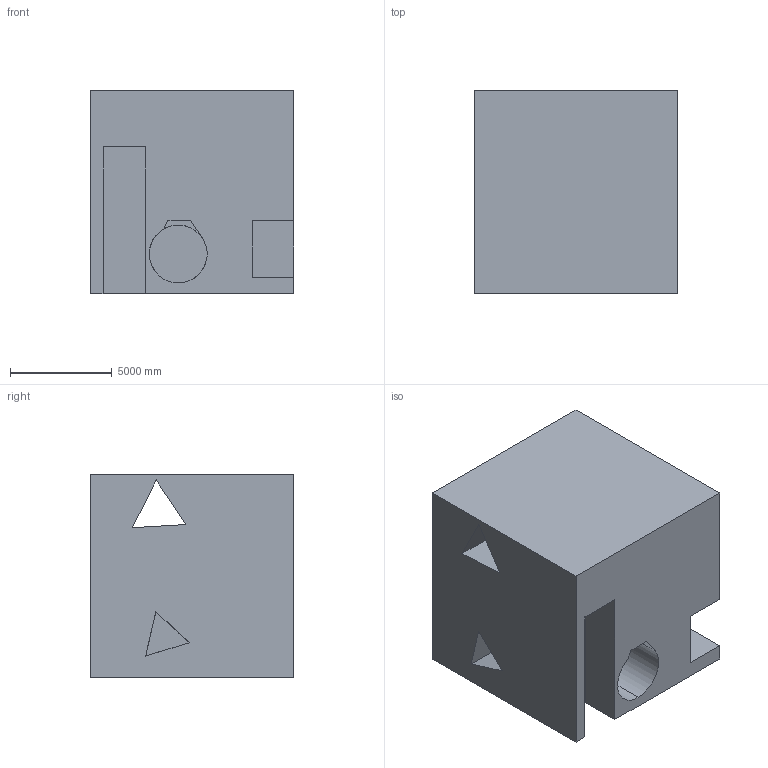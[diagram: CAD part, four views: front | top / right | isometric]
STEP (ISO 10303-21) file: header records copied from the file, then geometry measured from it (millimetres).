
FILE_DESCRIPTION (( 'STEP AP203' ), '1' );
FILE_NAME ('158.STEP', '2022-09-06T15:16:12', ( 'user' ), ( '' ), 'SwSTEP 2.0', 'SolidWorks 2021', '' );
FILE_SCHEMA (( 'CONFIG_CONTROL_DESIGN' ));
Length unit declared in the file: centimetre
Products named in the file (1): 158
Bounding box: 10000 x 10000 x 10000 mm (x, y, z)
Volume: 857814967127.9 mm3; surface area: 822320959.5 mm2
Topology: 1 solids, 1 shells, 31 faces, 81 edges, 54 vertices
Faces by surface type: plane 29, cylinder 2
Entity records: 1026 total; most frequent: CARTESIAN_POINT 185, ORIENTED_EDGE 162, DIRECTION 145, EDGE_CURVE 81, VECTOR 69, LINE 69, VERTEX_POINT 54, AXIS2_PLACEMENT_3D 38
